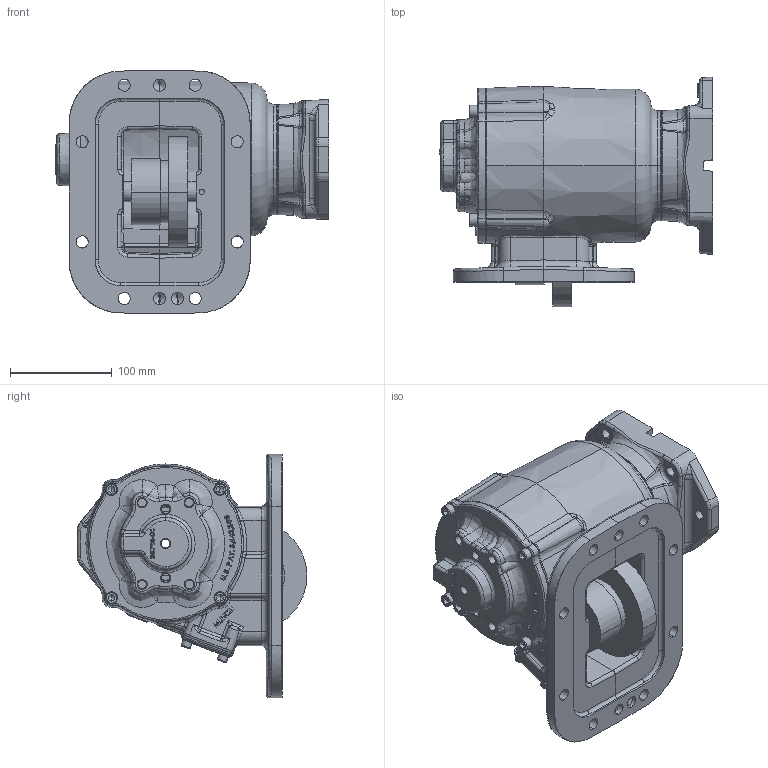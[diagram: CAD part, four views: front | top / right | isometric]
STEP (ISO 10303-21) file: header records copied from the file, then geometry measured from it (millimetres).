
FILE_DESCRIPTION (( 'STEP AP203' ), '1' );
FILE_NAME ('CS8S-XXXXX-X4PX.STEP', '2012-06-12T14:44:43', ( '' ), ( '' ), 'SwSTEP 2.0', 'SolidWorks 2012', '' );
FILE_SCHEMA (( 'CONFIG_CONTROL_DESIGN' ));
Products named in the file (3): CS8S-XXXXX-X4PX; 14T37779; CS8S-XXXXX-X4XX
Assembly tree (2 placements, depth 2):
  CS8S-XXXXX-X4PX
    CS8S-XXXXX-X4XX
    14T37779
Bounding box: 268.87 x 225.89 x 239.61 mm (x, y, z)
Volume: 1998536.3 mm3; surface area: 468582.4 mm2
Topology: 2 solids, 14 shells, 2427 faces, 6211 edges, 3849 vertices
Faces by surface type: bspline 929, plane 647, cylinder 459, cone 310, torus 74, sphere 8
Entity records: 121562 total; most frequent: CARTESIAN_POINT 69335, ORIENTED_EDGE 12250, DIRECTION 8457, EDGE_CURVE 6125, VERTEX_POINT 3849, AXIS2_PLACEMENT_3D 2972, EDGE_LOOP 2676, LINE 2513
